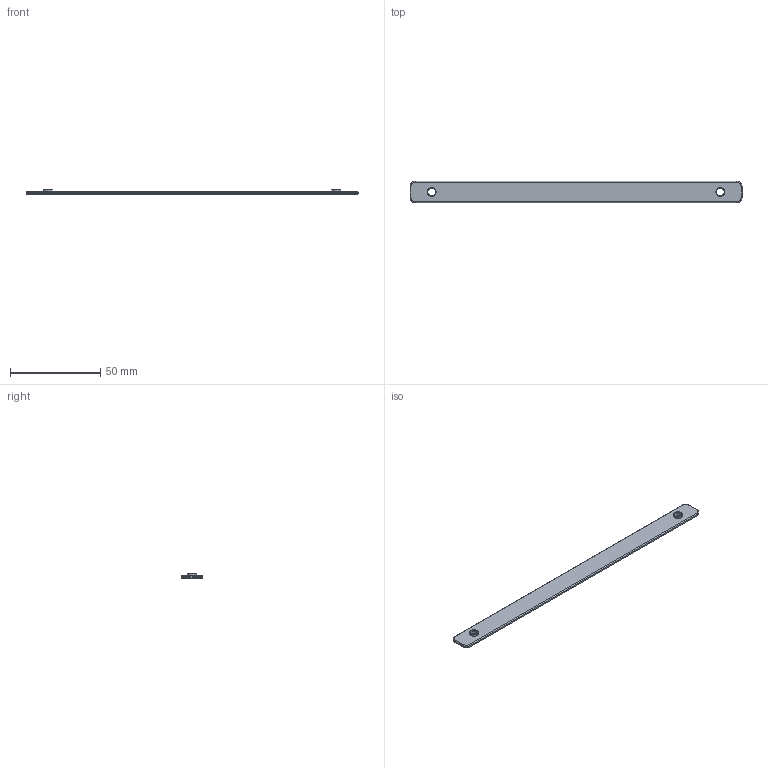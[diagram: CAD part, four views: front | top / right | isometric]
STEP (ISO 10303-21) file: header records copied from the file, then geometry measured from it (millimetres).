
FILE_DESCRIPTION(('Open CASCADE Model'),'2;1');
FILE_NAME('W-BAR-WL160-12','2026-10-19T21:23:52',('Author'),( 'Open CASCADE'),'Open CASCADE STEP processor 8.0','build123d', 'Unknown');
FILE_SCHEMA(('AUTOMOTIVE_DESIGN { 1 0 10303 214 1 1 1 1 }'));
Length unit declared in the file: millimetre
Products named in the file (2): W-BAR-WL160-12; brass_WL160-12__w
Assembly tree (1 placements, depth 2):
  W-BAR-WL160-12
    brass_WL160-12__w
Bounding box: 184 x 12 x 2.49 mm (x, y, z)
Volume: 3238.5 mm3; surface area: 4892.6 mm2
Topology: 1 solids, 1 shells, 32 faces, 68 edges, 40 vertices
Faces by surface type: plane 12, cylinder 12, cone 4, torus 4
Full cylindrical faces by diameter (mm): 4.3 x2, 5 x2
Entity records: 1768 total; most frequent: CARTESIAN_POINT 358, DIRECTION 264, ORIENTED_EDGE 136, PCURVE 136, DEFINITIONAL_REPRESENTATION 136, LINE 124, VECTOR 124, EDGE_CURVE 68
